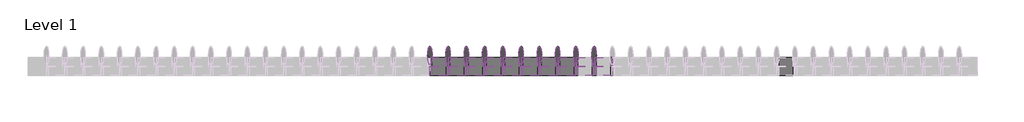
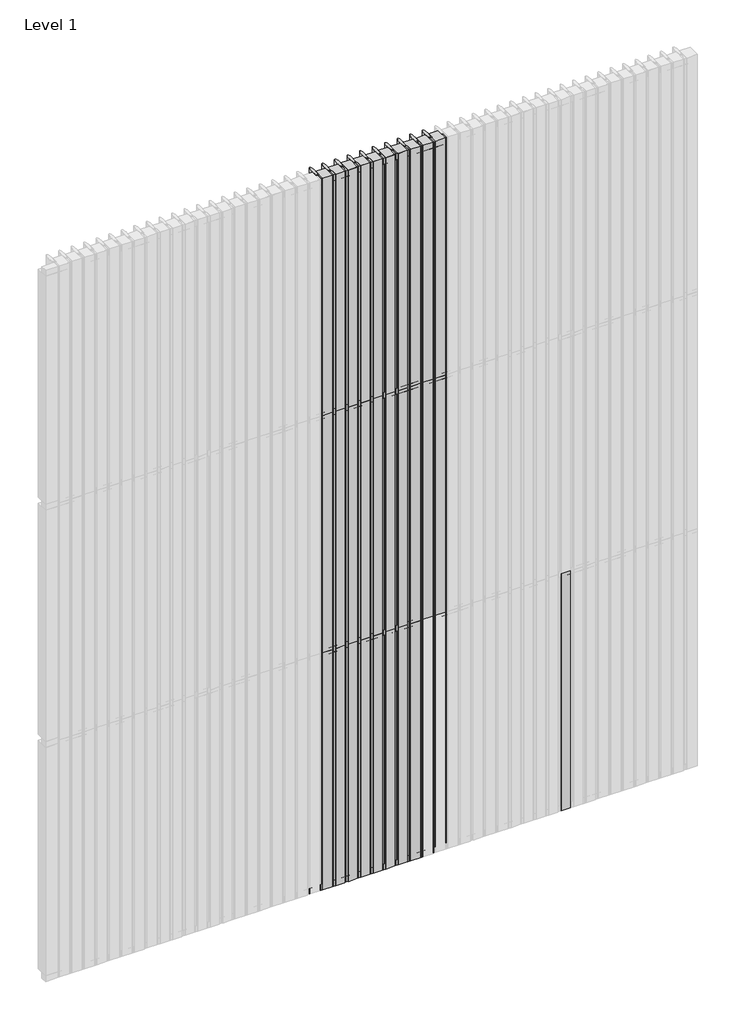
# One storey, part 4 of 6: 70 members, 59 plates.
"""IFC4 building model written with IfcOpenShell, lengths in millimetres."""

from ifc_helpers import new_model, si_unit, origin, place, context, project, spatial, transform, mapped, element, save
from components import rectangular_mullion_31e9810d, rectangular_mullion_cddbc660, rectangular_mullion_a3e25429, rectangular_mullion_ae434dd9, empty_system_panel_empty_de76a839, empty_system_panel_empty_5411477d, empty_system_panel_empty_c50988b4

model = new_model("IFC4")

# Units and contexts
model_context = context("Model", 3, world=origin())
ifc_project = project(units=[si_unit("LENGTHUNIT", "METRE", prefix="MILLI")], contexts=[model_context])

# Site, building, storey
site = spatial("IfcSite", under=ifc_project)
building = spatial("IfcBuilding", under=site)
storey = spatial("IfcBuildingStorey", under=building, Name="Level 1", Elevation=0.0)

# Members
placement = place(None, origin())
rectangular_mullion_shape = rectangular_mullion_31e9810d(model_context)
element("IfcMember", 1, ObjectType="Rectangular Mullion : RSen_21_CWM_blade - 100 ellips - 0°_gen_duco projects", at=placement, inside=storey, context=model_context, shape_type="MappedRepresentation", body=[
    mapped(rectangular_mullion_shape, transform((3900.0, 3000.0, 0.0), x_axis=(-1.0, 0.0, 0.0), y_axis=(0.0, 1.0, 0.0), z_axis=(0.0, 0.0, -1.0))),
])
element("IfcMember", 2, ObjectType="Rectangular Mullion : RSen_21_CWM_blade - 100 ellips - 0°_gen_duco projects", at=placement, inside=storey, context=model_context, shape_type="MappedRepresentation", body=[
    mapped(rectangular_mullion_shape, transform((3800.0, 3000.0, 0.0), x_axis=(-1.0, 0.0, 0.0), y_axis=(0.0, 1.0, 0.0), z_axis=(0.0, 0.0, -1.0))),
])
element("IfcMember", 3, ObjectType="Rectangular Mullion : RSen_21_CWM_blade - 100 ellips - 0°_gen_duco projects", at=placement, inside=storey, context=model_context, shape_type="MappedRepresentation", body=[
    mapped(rectangular_mullion_shape, transform((3700.0, 3000.0, 0.0), x_axis=(-1.0, 0.0, 0.0), y_axis=(0.0, 1.0, 0.0), z_axis=(0.0, 0.0, -1.0))),
])
element("IfcMember", 4, ObjectType="Rectangular Mullion : RSen_21_CWM_blade - 100 ellips - 0°_gen_duco projects", at=placement, inside=storey, context=model_context, shape_type="MappedRepresentation", body=[
    mapped(rectangular_mullion_shape, transform((3600.0, 3000.0, 0.0), x_axis=(-1.0, 0.0, 0.0), y_axis=(0.0, 1.0, 0.0), z_axis=(0.0, 0.0, -1.0))),
])
element("IfcMember", 5, ObjectType="Rectangular Mullion : RSen_21_CWM_blade - 100 ellips - 0°_gen_duco projects", at=placement, inside=storey, context=model_context, shape_type="MappedRepresentation", body=[
    mapped(rectangular_mullion_shape, transform((3500.0, 3000.0, 0.0), x_axis=(-1.0, 0.0, 0.0), y_axis=(0.0, 1.0, 0.0), z_axis=(0.0, 0.0, -1.0))),
])
element("IfcMember", 6, ObjectType="Rectangular Mullion : RSen_21_CWM_blade - 100 ellips - 0°_gen_duco projects", at=placement, inside=storey, context=model_context, shape_type="MappedRepresentation", body=[
    mapped(rectangular_mullion_shape, transform((3400.0, 3000.0, 0.0), x_axis=(-1.0, 0.0, 0.0), y_axis=(0.0, 1.0, 0.0), z_axis=(0.0, 0.0, -1.0))),
])
element("IfcMember", 7, ObjectType="Rectangular Mullion : RSen_21_CWM_blade - 100 ellips - 0°_gen_duco projects", at=placement, inside=storey, context=model_context, shape_type="MappedRepresentation", body=[
    mapped(rectangular_mullion_shape, transform((3300.0, 3000.0, 0.0), x_axis=(-1.0, 0.0, 0.0), y_axis=(0.0, 1.0, 0.0), z_axis=(0.0, 0.0, -1.0))),
])
element("IfcMember", 8, ObjectType="Rectangular Mullion : RSen_21_CWM_blade - 100 ellips - 0°_gen_duco projects", at=placement, inside=storey, context=model_context, shape_type="MappedRepresentation", body=[
    mapped(rectangular_mullion_shape, transform((3200.0, 3000.0, 0.0), x_axis=(-1.0, 0.0, 0.0), y_axis=(0.0, 1.0, 0.0), z_axis=(0.0, 0.0, -1.0))),
])
element("IfcMember", 9, ObjectType="Rectangular Mullion : RSen_21_CWM_blade - 100 ellips - 0°_gen_duco projects", at=placement, inside=storey, context=model_context, shape_type="MappedRepresentation", body=[
    mapped(rectangular_mullion_shape, transform((3100.0, 3000.0, 0.0), x_axis=(-1.0, 0.0, 0.0), y_axis=(0.0, 1.0, 0.0), z_axis=(0.0, 0.0, -1.0))),
])
element("IfcMember", 10, ObjectType="Rectangular Mullion : RSen_21_CWM_blade - 100 ellips - 0°_gen_duco projects", at=placement, inside=storey, context=model_context, shape_type="MappedRepresentation", body=[
    mapped(rectangular_mullion_shape, transform((3000.0, 3000.0, 0.0), x_axis=(-1.0, 0.0, 0.0), y_axis=(0.0, 1.0, 0.0), z_axis=(0.0, 0.0, -1.0))),
])
element("IfcMember", 11, ObjectType="Rectangular Mullion : RSen_21_CWM_blade - 100 ellips - 0°_gen_duco projects", at=placement, inside=storey, context=model_context, shape_type="MappedRepresentation", body=[
    mapped(rectangular_mullion_shape, transform((3900.0, 3000.0, 2000.0), x_axis=(-1.0, 0.0, 0.0), y_axis=(0.0, 1.0, 0.0), z_axis=(0.0, 0.0, -1.0))),
])
element("IfcMember", 12, ObjectType="Rectangular Mullion : RSen_21_CWM_blade - 100 ellips - 0°_gen_duco projects", at=placement, inside=storey, context=model_context, shape_type="MappedRepresentation", body=[
    mapped(rectangular_mullion_shape, transform((3800.0, 3000.0, 2000.0), x_axis=(-1.0, 0.0, 0.0), y_axis=(0.0, 1.0, 0.0), z_axis=(0.0, 0.0, -1.0))),
])
element("IfcMember", 13, ObjectType="Rectangular Mullion : RSen_21_CWM_blade - 100 ellips - 0°_gen_duco projects", at=placement, inside=storey, context=model_context, shape_type="MappedRepresentation", body=[
    mapped(rectangular_mullion_shape, transform((3700.0, 3000.0, 2000.0), x_axis=(-1.0, 0.0, 0.0), y_axis=(0.0, 1.0, 0.0), z_axis=(0.0, 0.0, -1.0))),
])
element("IfcMember", 14, ObjectType="Rectangular Mullion : RSen_21_CWM_blade - 100 ellips - 0°_gen_duco projects", at=placement, inside=storey, context=model_context, shape_type="MappedRepresentation", body=[
    mapped(rectangular_mullion_shape, transform((3600.0, 3000.0, 2000.0), x_axis=(-1.0, 0.0, 0.0), y_axis=(0.0, 1.0, 0.0), z_axis=(0.0, 0.0, -1.0))),
])
element("IfcMember", 15, ObjectType="Rectangular Mullion : RSen_21_CWM_blade - 100 ellips - 0°_gen_duco projects", at=placement, inside=storey, context=model_context, shape_type="MappedRepresentation", body=[
    mapped(rectangular_mullion_shape, transform((3500.0, 3000.0, 2000.0), x_axis=(-1.0, 0.0, 0.0), y_axis=(0.0, 1.0, 0.0), z_axis=(0.0, 0.0, -1.0))),
])
element("IfcMember", 16, ObjectType="Rectangular Mullion : RSen_21_CWM_blade - 100 ellips - 0°_gen_duco projects", at=placement, inside=storey, context=model_context, shape_type="MappedRepresentation", body=[
    mapped(rectangular_mullion_shape, transform((3400.0, 3000.0, 2000.0), x_axis=(-1.0, 0.0, 0.0), y_axis=(0.0, 1.0, 0.0), z_axis=(0.0, 0.0, -1.0))),
])
element("IfcMember", 17, ObjectType="Rectangular Mullion : RSen_21_CWM_blade - 100 ellips - 0°_gen_duco projects", at=placement, inside=storey, context=model_context, shape_type="MappedRepresentation", body=[
    mapped(rectangular_mullion_shape, transform((3300.0, 3000.0, 2000.0), x_axis=(-1.0, 0.0, 0.0), y_axis=(0.0, 1.0, 0.0), z_axis=(0.0, 0.0, -1.0))),
])
element("IfcMember", 18, ObjectType="Rectangular Mullion : RSen_21_CWM_blade - 100 ellips - 0°_gen_duco projects", at=placement, inside=storey, context=model_context, shape_type="MappedRepresentation", body=[
    mapped(rectangular_mullion_shape, transform((3200.0, 3000.0, 2000.0), x_axis=(-1.0, 0.0, 0.0), y_axis=(0.0, 1.0, 0.0), z_axis=(0.0, 0.0, -1.0))),
])
element("IfcMember", 19, ObjectType="Rectangular Mullion : RSen_21_CWM_blade - 100 ellips - 0°_gen_duco projects", at=placement, inside=storey, context=model_context, shape_type="MappedRepresentation", body=[
    mapped(rectangular_mullion_shape, transform((3100.0, 3000.0, 2000.0), x_axis=(-1.0, 0.0, 0.0), y_axis=(0.0, 1.0, 0.0), z_axis=(0.0, 0.0, -1.0))),
])
element("IfcMember", 20, ObjectType="Rectangular Mullion : RSen_21_CWM_blade - 100 ellips - 0°_gen_duco projects", at=placement, inside=storey, context=model_context, shape_type="MappedRepresentation", body=[
    mapped(rectangular_mullion_shape, transform((3000.0, 3000.0, 2000.0), x_axis=(-1.0, 0.0, 0.0), y_axis=(0.0, 1.0, 0.0), z_axis=(0.0, 0.0, -1.0))),
])
element("IfcMember", 21, ObjectType="Rectangular Mullion : RSen_21_CWM_blade - 100 ellips - 0°_gen_duco projects", at=placement, inside=storey, context=model_context, shape_type="MappedRepresentation", body=[
    mapped(rectangular_mullion_shape, transform((3900.0, 3000.0, 4000.0), x_axis=(-1.0, 0.0, 0.0), y_axis=(0.0, 1.0, 0.0), z_axis=(0.0, 0.0, -1.0))),
])
element("IfcMember", 22, ObjectType="Rectangular Mullion : RSen_21_CWM_blade - 100 ellips - 0°_gen_duco projects", at=placement, inside=storey, context=model_context, shape_type="MappedRepresentation", body=[
    mapped(rectangular_mullion_shape, transform((3800.0, 3000.0, 4000.0), x_axis=(-1.0, 0.0, 0.0), y_axis=(0.0, 1.0, 0.0), z_axis=(0.0, 0.0, -1.0))),
])
element("IfcMember", 23, ObjectType="Rectangular Mullion : RSen_21_CWM_blade - 100 ellips - 0°_gen_duco projects", at=placement, inside=storey, context=model_context, shape_type="MappedRepresentation", body=[
    mapped(rectangular_mullion_shape, transform((3700.0, 3000.0, 4000.0), x_axis=(-1.0, 0.0, 0.0), y_axis=(0.0, 1.0, 0.0), z_axis=(0.0, 0.0, -1.0))),
])
element("IfcMember", 24, ObjectType="Rectangular Mullion : RSen_21_CWM_blade - 100 ellips - 0°_gen_duco projects", at=placement, inside=storey, context=model_context, shape_type="MappedRepresentation", body=[
    mapped(rectangular_mullion_shape, transform((3600.0, 3000.0, 4000.0), x_axis=(-1.0, 0.0, 0.0), y_axis=(0.0, 1.0, 0.0), z_axis=(0.0, 0.0, -1.0))),
])
element("IfcMember", 25, ObjectType="Rectangular Mullion : RSen_21_CWM_blade - 100 ellips - 0°_gen_duco projects", at=placement, inside=storey, context=model_context, shape_type="MappedRepresentation", body=[
    mapped(rectangular_mullion_shape, transform((3500.0, 3000.0, 4000.0), x_axis=(-1.0, 0.0, 0.0), y_axis=(0.0, 1.0, 0.0), z_axis=(0.0, 0.0, -1.0))),
])
element("IfcMember", 26, ObjectType="Rectangular Mullion : RSen_21_CWM_blade - 100 ellips - 0°_gen_duco projects", at=placement, inside=storey, context=model_context, shape_type="MappedRepresentation", body=[
    mapped(rectangular_mullion_shape, transform((3400.0, 3000.0, 4000.0), x_axis=(-1.0, 0.0, 0.0), y_axis=(0.0, 1.0, 0.0), z_axis=(0.0, 0.0, -1.0))),
])
element("IfcMember", 27, ObjectType="Rectangular Mullion : RSen_21_CWM_blade - 100 ellips - 0°_gen_duco projects", at=placement, inside=storey, context=model_context, shape_type="MappedRepresentation", body=[
    mapped(rectangular_mullion_shape, transform((3300.0, 3000.0, 4000.0), x_axis=(-1.0, 0.0, 0.0), y_axis=(0.0, 1.0, 0.0), z_axis=(0.0, 0.0, -1.0))),
])
element("IfcMember", 28, ObjectType="Rectangular Mullion : RSen_21_CWM_blade - 100 ellips - 0°_gen_duco projects", at=placement, inside=storey, context=model_context, shape_type="MappedRepresentation", body=[
    mapped(rectangular_mullion_shape, transform((3200.0, 3000.0, 4000.0), x_axis=(-1.0, 0.0, 0.0), y_axis=(0.0, 1.0, 0.0), z_axis=(0.0, 0.0, -1.0))),
])
element("IfcMember", 29, ObjectType="Rectangular Mullion : RSen_21_CWM_blade - 100 ellips - 0°_gen_duco projects", at=placement, inside=storey, context=model_context, shape_type="MappedRepresentation", body=[
    mapped(rectangular_mullion_shape, transform((3100.0, 3000.0, 4000.0), x_axis=(-1.0, 0.0, 0.0), y_axis=(0.0, 1.0, 0.0), z_axis=(0.0, 0.0, -1.0))),
])
element("IfcMember", 30, ObjectType="Rectangular Mullion : RSen_21_CWM_blade - 100 ellips - 0°_gen_duco projects", at=placement, inside=storey, context=model_context, shape_type="MappedRepresentation", body=[
    mapped(rectangular_mullion_shape, transform((3000.0, 3000.0, 4000.0), x_axis=(-1.0, 0.0, 0.0), y_axis=(0.0, 1.0, 0.0), z_axis=(0.0, 0.0, -1.0))),
])
rectangular_mullion_2_shape = rectangular_mullion_cddbc660(model_context)
element("IfcMember", 31, ObjectType="Rectangular Mullion : RSen_21_CWM_support profile 50x50 - left_gen_duco projects", at=placement, inside=storey, context=model_context, shape_type="MappedRepresentation", body=[
    mapped(rectangular_mullion_2_shape, transform((3900.0, 3000.0, 6000.0), x_axis=(0.0, 0.0, 1.0), y_axis=(0.0, 1.0, 0.0), z_axis=(-1.0, 0.0, 0.0))),
])
element("IfcMember", 32, ObjectType="Rectangular Mullion : RSen_21_CWM_support profile 50x50 - left_gen_duco projects", at=placement, inside=storey, context=model_context, shape_type="MappedRepresentation", body=[
    mapped(rectangular_mullion_2_shape, transform((3800.0, 3000.0, 6000.0), x_axis=(0.0, 0.0, 1.0), y_axis=(0.0, 1.0, 0.0), z_axis=(-1.0, 0.0, 0.0))),
])
element("IfcMember", 33, ObjectType="Rectangular Mullion : RSen_21_CWM_support profile 50x50 - left_gen_duco projects", at=placement, inside=storey, context=model_context, shape_type="MappedRepresentation", body=[
    mapped(rectangular_mullion_2_shape, transform((3700.0, 3000.0, 6000.0), x_axis=(0.0, 0.0, 1.0), y_axis=(0.0, 1.0, 0.0), z_axis=(-1.0, 0.0, 0.0))),
])
element("IfcMember", 34, ObjectType="Rectangular Mullion : RSen_21_CWM_support profile 50x50 - left_gen_duco projects", at=placement, inside=storey, context=model_context, shape_type="MappedRepresentation", body=[
    mapped(rectangular_mullion_2_shape, transform((3600.0, 3000.0, 6000.0), x_axis=(0.0, 0.0, 1.0), y_axis=(0.0, 1.0, 0.0), z_axis=(-1.0, 0.0, 0.0))),
])
element("IfcMember", 35, ObjectType="Rectangular Mullion : RSen_21_CWM_support profile 50x50 - left_gen_duco projects", at=placement, inside=storey, context=model_context, shape_type="MappedRepresentation", body=[
    mapped(rectangular_mullion_2_shape, transform((3500.0, 3000.0, 6000.0), x_axis=(0.0, 0.0, 1.0), y_axis=(0.0, 1.0, 0.0), z_axis=(-1.0, 0.0, 0.0))),
])
element("IfcMember", 36, ObjectType="Rectangular Mullion : RSen_21_CWM_support profile 50x50 - left_gen_duco projects", at=placement, inside=storey, context=model_context, shape_type="MappedRepresentation", body=[
    mapped(rectangular_mullion_2_shape, transform((3400.0, 3000.0, 6000.0), x_axis=(0.0, 0.0, 1.0), y_axis=(0.0, 1.0, 0.0), z_axis=(-1.0, 0.0, 0.0))),
])
element("IfcMember", 37, ObjectType="Rectangular Mullion : RSen_21_CWM_support profile 50x50 - left_gen_duco projects", at=placement, inside=storey, context=model_context, shape_type="MappedRepresentation", body=[
    mapped(rectangular_mullion_2_shape, transform((3300.0, 3000.0, 6000.0), x_axis=(0.0, 0.0, 1.0), y_axis=(0.0, 1.0, 0.0), z_axis=(-1.0, 0.0, 0.0))),
])
element("IfcMember", 38, ObjectType="Rectangular Mullion : RSen_21_CWM_support profile 50x50 - left_gen_duco projects", at=placement, inside=storey, context=model_context, shape_type="MappedRepresentation", body=[
    mapped(rectangular_mullion_2_shape, transform((3200.0, 3000.0, 6000.0), x_axis=(0.0, 0.0, 1.0), y_axis=(0.0, 1.0, 0.0), z_axis=(-1.0, 0.0, 0.0))),
])
element("IfcMember", 39, ObjectType="Rectangular Mullion : RSen_21_CWM_support profile 50x50 - left_gen_duco projects", at=placement, inside=storey, context=model_context, shape_type="MappedRepresentation", body=[
    mapped(rectangular_mullion_2_shape, transform((3100.0, 3000.0, 6000.0), x_axis=(0.0, 0.0, 1.0), y_axis=(0.0, 1.0, 0.0), z_axis=(-1.0, 0.0, 0.0))),
])
element("IfcMember", 40, ObjectType="Rectangular Mullion : RSen_21_CWM_support profile 50x50 - left_gen_duco projects", at=placement, inside=storey, context=model_context, shape_type="MappedRepresentation", body=[
    mapped(rectangular_mullion_2_shape, transform((3000.0, 3000.0, 6000.0), x_axis=(0.0, 0.0, 1.0), y_axis=(0.0, 1.0, 0.0), z_axis=(-1.0, 0.0, 0.0))),
])
rectangular_mullion_3_shape = rectangular_mullion_a3e25429(model_context)
element("IfcMember", 41, ObjectType="Rectangular Mullion : RSen_21_CWM_support profile 50x50 - right_gen_duco projects", at=placement, inside=storey, context=model_context, shape_type="MappedRepresentation", body=[
    mapped(rectangular_mullion_3_shape, transform((3900.0, 3000.0, 0.0), x_axis=(0.0, 0.0, -1.0), y_axis=(0.0, 1.0, 0.0), z_axis=(1.0, 0.0, 0.0))),
])
element("IfcMember", 42, ObjectType="Rectangular Mullion : RSen_21_CWM_support profile 50x50 - right_gen_duco projects", at=placement, inside=storey, context=model_context, shape_type="MappedRepresentation", body=[
    mapped(rectangular_mullion_3_shape, transform((3800.0, 3000.0, 0.0), x_axis=(0.0, 0.0, -1.0), y_axis=(0.0, 1.0, 0.0), z_axis=(1.0, 0.0, 0.0))),
])
element("IfcMember", 43, ObjectType="Rectangular Mullion : RSen_21_CWM_support profile 50x50 - right_gen_duco projects", at=placement, inside=storey, context=model_context, shape_type="MappedRepresentation", body=[
    mapped(rectangular_mullion_3_shape, transform((3700.0, 3000.0, 0.0), x_axis=(0.0, 0.0, -1.0), y_axis=(0.0, 1.0, 0.0), z_axis=(1.0, 0.0, 0.0))),
])
element("IfcMember", 44, ObjectType="Rectangular Mullion : RSen_21_CWM_support profile 50x50 - right_gen_duco projects", at=placement, inside=storey, context=model_context, shape_type="MappedRepresentation", body=[
    mapped(rectangular_mullion_3_shape, transform((3600.0, 3000.0, 0.0), x_axis=(0.0, 0.0, -1.0), y_axis=(0.0, 1.0, 0.0), z_axis=(1.0, 0.0, 0.0))),
])
element("IfcMember", 45, ObjectType="Rectangular Mullion : RSen_21_CWM_support profile 50x50 - right_gen_duco projects", at=placement, inside=storey, context=model_context, shape_type="MappedRepresentation", body=[
    mapped(rectangular_mullion_3_shape, transform((3500.0, 3000.0, 0.0), x_axis=(0.0, 0.0, -1.0), y_axis=(0.0, 1.0, 0.0), z_axis=(1.0, 0.0, 0.0))),
])
element("IfcMember", 46, ObjectType="Rectangular Mullion : RSen_21_CWM_support profile 50x50 - right_gen_duco projects", at=placement, inside=storey, context=model_context, shape_type="MappedRepresentation", body=[
    mapped(rectangular_mullion_3_shape, transform((3400.0, 3000.0, 0.0), x_axis=(0.0, 0.0, -1.0), y_axis=(0.0, 1.0, 0.0), z_axis=(1.0, 0.0, 0.0))),
])
element("IfcMember", 47, ObjectType="Rectangular Mullion : RSen_21_CWM_support profile 50x50 - right_gen_duco projects", at=placement, inside=storey, context=model_context, shape_type="MappedRepresentation", body=[
    mapped(rectangular_mullion_3_shape, transform((3300.0, 3000.0, 0.0), x_axis=(0.0, 0.0, -1.0), y_axis=(0.0, 1.0, 0.0), z_axis=(1.0, 0.0, 0.0))),
])
element("IfcMember", 48, ObjectType="Rectangular Mullion : RSen_21_CWM_support profile 50x50 - right_gen_duco projects", at=placement, inside=storey, context=model_context, shape_type="MappedRepresentation", body=[
    mapped(rectangular_mullion_3_shape, transform((3200.0, 3000.0, 0.0), x_axis=(0.0, 0.0, -1.0), y_axis=(0.0, 1.0, 0.0), z_axis=(1.0, 0.0, 0.0))),
])
element("IfcMember", 49, ObjectType="Rectangular Mullion : RSen_21_CWM_support profile 50x50 - right_gen_duco projects", at=placement, inside=storey, context=model_context, shape_type="MappedRepresentation", body=[
    mapped(rectangular_mullion_3_shape, transform((3100.0, 3000.0, 0.0), x_axis=(0.0, 0.0, -1.0), y_axis=(0.0, 1.0, 0.0), z_axis=(1.0, 0.0, 0.0))),
])
element("IfcMember", 50, ObjectType="Rectangular Mullion : RSen_21_CWM_support profile 50x50 - right_gen_duco projects", at=placement, inside=storey, context=model_context, shape_type="MappedRepresentation", body=[
    mapped(rectangular_mullion_3_shape, transform((3000.0, 3000.0, 0.0), x_axis=(0.0, 0.0, -1.0), y_axis=(0.0, 1.0, 0.0), z_axis=(1.0, 0.0, 0.0))),
])
rectangular_mullion_4_shape = rectangular_mullion_ae434dd9(model_context)
element("IfcMember", 51, ObjectType="Rectangular Mullion : RSen_21_CWM_support profile 50x50_gen_duco projects", at=placement, inside=storey, context=model_context, shape_type="MappedRepresentation", body=[
    mapped(rectangular_mullion_4_shape, transform((3900.0, 3000.0, 2000.0), x_axis=(0.0, 0.0, 1.0), y_axis=(0.0, 1.0, 0.0), z_axis=(-1.0, 0.0, 0.0))),
])
element("IfcMember", 52, ObjectType="Rectangular Mullion : RSen_21_CWM_support profile 50x50_gen_duco projects", at=placement, inside=storey, context=model_context, shape_type="MappedRepresentation", body=[
    mapped(rectangular_mullion_4_shape, transform((3800.0, 3000.0, 2000.0), x_axis=(0.0, 0.0, 1.0), y_axis=(0.0, 1.0, 0.0), z_axis=(-1.0, 0.0, 0.0))),
])
element("IfcMember", 53, ObjectType="Rectangular Mullion : RSen_21_CWM_support profile 50x50_gen_duco projects", at=placement, inside=storey, context=model_context, shape_type="MappedRepresentation", body=[
    mapped(rectangular_mullion_4_shape, transform((3700.0, 3000.0, 2000.0), x_axis=(0.0, 0.0, 1.0), y_axis=(0.0, 1.0, 0.0), z_axis=(-1.0, 0.0, 0.0))),
])
element("IfcMember", 54, ObjectType="Rectangular Mullion : RSen_21_CWM_support profile 50x50_gen_duco projects", at=placement, inside=storey, context=model_context, shape_type="MappedRepresentation", body=[
    mapped(rectangular_mullion_4_shape, transform((3600.0, 3000.0, 2000.0), x_axis=(0.0, 0.0, 1.0), y_axis=(0.0, 1.0, 0.0), z_axis=(-1.0, 0.0, 0.0))),
])
element("IfcMember", 55, ObjectType="Rectangular Mullion : RSen_21_CWM_support profile 50x50_gen_duco projects", at=placement, inside=storey, context=model_context, shape_type="MappedRepresentation", body=[
    mapped(rectangular_mullion_4_shape, transform((3500.0, 3000.0, 2000.0), x_axis=(0.0, 0.0, 1.0), y_axis=(0.0, 1.0, 0.0), z_axis=(-1.0, 0.0, 0.0))),
])
element("IfcMember", 56, ObjectType="Rectangular Mullion : RSen_21_CWM_support profile 50x50_gen_duco projects", at=placement, inside=storey, context=model_context, shape_type="MappedRepresentation", body=[
    mapped(rectangular_mullion_4_shape, transform((3400.0, 3000.0, 2000.0), x_axis=(0.0, 0.0, 1.0), y_axis=(0.0, 1.0, 0.0), z_axis=(-1.0, 0.0, 0.0))),
])
element("IfcMember", 57, ObjectType="Rectangular Mullion : RSen_21_CWM_support profile 50x50_gen_duco projects", at=placement, inside=storey, context=model_context, shape_type="MappedRepresentation", body=[
    mapped(rectangular_mullion_4_shape, transform((3300.0, 3000.0, 2000.0), x_axis=(0.0, 0.0, 1.0), y_axis=(0.0, 1.0, 0.0), z_axis=(-1.0, 0.0, 0.0))),
])
element("IfcMember", 58, ObjectType="Rectangular Mullion : RSen_21_CWM_support profile 50x50_gen_duco projects", at=placement, inside=storey, context=model_context, shape_type="MappedRepresentation", body=[
    mapped(rectangular_mullion_4_shape, transform((3200.0, 3000.0, 2000.0), x_axis=(0.0, 0.0, 1.0), y_axis=(0.0, 1.0, 0.0), z_axis=(-1.0, 0.0, 0.0))),
])
element("IfcMember", 59, ObjectType="Rectangular Mullion : RSen_21_CWM_support profile 50x50_gen_duco projects", at=placement, inside=storey, context=model_context, shape_type="MappedRepresentation", body=[
    mapped(rectangular_mullion_4_shape, transform((3100.0, 3000.0, 2000.0), x_axis=(0.0, 0.0, 1.0), y_axis=(0.0, 1.0, 0.0), z_axis=(-1.0, 0.0, 0.0))),
])
element("IfcMember", 60, ObjectType="Rectangular Mullion : RSen_21_CWM_support profile 50x50_gen_duco projects", at=placement, inside=storey, context=model_context, shape_type="MappedRepresentation", body=[
    mapped(rectangular_mullion_4_shape, transform((3000.0, 3000.0, 2000.0), x_axis=(0.0, 0.0, 1.0), y_axis=(0.0, 1.0, 0.0), z_axis=(-1.0, 0.0, 0.0))),
])
element("IfcMember", 61, ObjectType="Rectangular Mullion : RSen_21_CWM_support profile 50x50_gen_duco projects", at=placement, inside=storey, context=model_context, shape_type="MappedRepresentation", body=[
    mapped(rectangular_mullion_4_shape, transform((3900.0, 3000.0, 4000.0), x_axis=(0.0, 0.0, 1.0), y_axis=(0.0, 1.0, 0.0), z_axis=(-1.0, 0.0, 0.0))),
])
element("IfcMember", 62, ObjectType="Rectangular Mullion : RSen_21_CWM_support profile 50x50_gen_duco projects", at=placement, inside=storey, context=model_context, shape_type="MappedRepresentation", body=[
    mapped(rectangular_mullion_4_shape, transform((3800.0, 3000.0, 4000.0), x_axis=(0.0, 0.0, 1.0), y_axis=(0.0, 1.0, 0.0), z_axis=(-1.0, 0.0, 0.0))),
])
element("IfcMember", 63, ObjectType="Rectangular Mullion : RSen_21_CWM_support profile 50x50_gen_duco projects", at=placement, inside=storey, context=model_context, shape_type="MappedRepresentation", body=[
    mapped(rectangular_mullion_4_shape, transform((3700.0, 3000.0, 4000.0), x_axis=(0.0, 0.0, 1.0), y_axis=(0.0, 1.0, 0.0), z_axis=(-1.0, 0.0, 0.0))),
])
element("IfcMember", 64, ObjectType="Rectangular Mullion : RSen_21_CWM_support profile 50x50_gen_duco projects", at=placement, inside=storey, context=model_context, shape_type="MappedRepresentation", body=[
    mapped(rectangular_mullion_4_shape, transform((3600.0, 3000.0, 4000.0), x_axis=(0.0, 0.0, 1.0), y_axis=(0.0, 1.0, 0.0), z_axis=(-1.0, 0.0, 0.0))),
])
element("IfcMember", 65, ObjectType="Rectangular Mullion : RSen_21_CWM_support profile 50x50_gen_duco projects", at=placement, inside=storey, context=model_context, shape_type="MappedRepresentation", body=[
    mapped(rectangular_mullion_4_shape, transform((3500.0, 3000.0, 4000.0), x_axis=(0.0, 0.0, 1.0), y_axis=(0.0, 1.0, 0.0), z_axis=(-1.0, 0.0, 0.0))),
])
element("IfcMember", 66, ObjectType="Rectangular Mullion : RSen_21_CWM_support profile 50x50_gen_duco projects", at=placement, inside=storey, context=model_context, shape_type="MappedRepresentation", body=[
    mapped(rectangular_mullion_4_shape, transform((3400.0, 3000.0, 4000.0), x_axis=(0.0, 0.0, 1.0), y_axis=(0.0, 1.0, 0.0), z_axis=(-1.0, 0.0, 0.0))),
])
element("IfcMember", 67, ObjectType="Rectangular Mullion : RSen_21_CWM_support profile 50x50_gen_duco projects", at=placement, inside=storey, context=model_context, shape_type="MappedRepresentation", body=[
    mapped(rectangular_mullion_4_shape, transform((3300.0, 3000.0, 4000.0), x_axis=(0.0, 0.0, 1.0), y_axis=(0.0, 1.0, 0.0), z_axis=(-1.0, 0.0, 0.0))),
])
element("IfcMember", 68, ObjectType="Rectangular Mullion : RSen_21_CWM_support profile 50x50_gen_duco projects", at=placement, inside=storey, context=model_context, shape_type="MappedRepresentation", body=[
    mapped(rectangular_mullion_4_shape, transform((3200.0, 3000.0, 4000.0), x_axis=(0.0, 0.0, 1.0), y_axis=(0.0, 1.0, 0.0), z_axis=(-1.0, 0.0, 0.0))),
])
element("IfcMember", 69, ObjectType="Rectangular Mullion : RSen_21_CWM_support profile 50x50_gen_duco projects", at=placement, inside=storey, context=model_context, shape_type="MappedRepresentation", body=[
    mapped(rectangular_mullion_4_shape, transform((3100.0, 3000.0, 4000.0), x_axis=(0.0, 0.0, 1.0), y_axis=(0.0, 1.0, 0.0), z_axis=(-1.0, 0.0, 0.0))),
])
element("IfcMember", 70, ObjectType="Rectangular Mullion : RSen_21_CWM_support profile 50x50_gen_duco projects", at=placement, inside=storey, context=model_context, shape_type="MappedRepresentation", body=[
    mapped(rectangular_mullion_4_shape, transform((3000.0, 3000.0, 4000.0), x_axis=(0.0, 0.0, 1.0), y_axis=(0.0, 1.0, 0.0), z_axis=(-1.0, 0.0, 0.0))),
])

# Plates
empty_system_panel_empty_shape = empty_system_panel_empty_de76a839(model_context)
element("IfcPlate", 71, ObjectType="Empty System Panel : Empty", at=placement, inside=storey, context=model_context, shape_type="MappedRepresentation", body=[
    mapped(empty_system_panel_empty_shape, transform((4950.0, 3000.0, 0.0), x_axis=(-1.0, 0.0, 0.0), y_axis=(0.0, -1.0, 0.0), z_axis=(0.0, 0.0, 1.0))),
])
element("IfcPlate", 72, ObjectType="Empty System Panel : Empty", at=placement, inside=storey, context=model_context, shape_type="MappedRepresentation", body=[
    mapped(empty_system_panel_empty_shape, transform((3750.0, 3000.0, 0.0), x_axis=(-1.0, 0.0, 0.0), y_axis=(0.0, -1.0, 0.0), z_axis=(0.0, 0.0, 1.0))),
])
element("IfcPlate", 73, ObjectType="Empty System Panel : Empty", at=placement, inside=storey, context=model_context, shape_type="MappedRepresentation", body=[
    mapped(empty_system_panel_empty_shape, transform((3650.0, 3000.0, 0.0), x_axis=(-1.0, 0.0, 0.0), y_axis=(0.0, -1.0, 0.0), z_axis=(0.0, 0.0, 1.0))),
])
element("IfcPlate", 74, ObjectType="Empty System Panel : Empty", at=placement, inside=storey, context=model_context, shape_type="MappedRepresentation", body=[
    mapped(empty_system_panel_empty_shape, transform((3550.0, 3000.0, 0.0), x_axis=(-1.0, 0.0, 0.0), y_axis=(0.0, -1.0, 0.0), z_axis=(0.0, 0.0, 1.0))),
])
element("IfcPlate", 75, ObjectType="Empty System Panel : Empty", at=placement, inside=storey, context=model_context, shape_type="MappedRepresentation", body=[
    mapped(empty_system_panel_empty_shape, transform((3450.0, 3000.0, 0.0), x_axis=(-1.0, 0.0, 0.0), y_axis=(0.0, -1.0, 0.0), z_axis=(0.0, 0.0, 1.0))),
])
element("IfcPlate", 76, ObjectType="Empty System Panel : Empty", at=placement, inside=storey, context=model_context, shape_type="MappedRepresentation", body=[
    mapped(empty_system_panel_empty_shape, transform((3350.0, 3000.0, 0.0), x_axis=(-1.0, 0.0, 0.0), y_axis=(0.0, -1.0, 0.0), z_axis=(0.0, 0.0, 1.0))),
])
element("IfcPlate", 77, ObjectType="Empty System Panel : Empty", at=placement, inside=storey, context=model_context, shape_type="MappedRepresentation", body=[
    mapped(empty_system_panel_empty_shape, transform((3250.0, 3000.0, 0.0), x_axis=(-1.0, 0.0, 0.0), y_axis=(0.0, -1.0, 0.0), z_axis=(0.0, 0.0, 1.0))),
])
element("IfcPlate", 78, ObjectType="Empty System Panel : Empty", at=placement, inside=storey, context=model_context, shape_type="MappedRepresentation", body=[
    mapped(empty_system_panel_empty_shape, transform((3150.0, 3000.0, 0.0), x_axis=(-1.0, 0.0, 0.0), y_axis=(0.0, -1.0, 0.0), z_axis=(0.0, 0.0, 1.0))),
])
element("IfcPlate", 79, ObjectType="Empty System Panel : Empty", at=placement, inside=storey, context=model_context, shape_type="MappedRepresentation", body=[
    mapped(empty_system_panel_empty_shape, transform((3050.0, 3000.0, 0.0), x_axis=(-1.0, 0.0, 0.0), y_axis=(0.0, -1.0, 0.0), z_axis=(0.0, 0.0, 1.0))),
])
element("IfcPlate", 80, ObjectType="Empty System Panel : Empty", at=placement, inside=storey, context=model_context, shape_type="MappedRepresentation", body=[
    mapped(empty_system_panel_empty_shape, transform((3950.0, 3000.0, 2000.0), x_axis=(-1.0, 0.0, 0.0), y_axis=(0.0, -1.0, 0.0), z_axis=(0.0, 0.0, 1.0))),
])
element("IfcPlate", 81, ObjectType="Empty System Panel : Empty", at=placement, inside=storey, context=model_context, shape_type="MappedRepresentation", body=[
    mapped(empty_system_panel_empty_shape, transform((3850.0, 3000.0, 2000.0), x_axis=(-1.0, 0.0, 0.0), y_axis=(0.0, -1.0, 0.0), z_axis=(0.0, 0.0, 1.0))),
])
element("IfcPlate", 82, ObjectType="Empty System Panel : Empty", at=placement, inside=storey, context=model_context, shape_type="MappedRepresentation", body=[
    mapped(empty_system_panel_empty_shape, transform((3750.0, 3000.0, 2000.0), x_axis=(-1.0, 0.0, 0.0), y_axis=(0.0, -1.0, 0.0), z_axis=(0.0, 0.0, 1.0))),
])
element("IfcPlate", 83, ObjectType="Empty System Panel : Empty", at=placement, inside=storey, context=model_context, shape_type="MappedRepresentation", body=[
    mapped(empty_system_panel_empty_shape, transform((3650.0, 3000.0, 2000.0), x_axis=(-1.0, 0.0, 0.0), y_axis=(0.0, -1.0, 0.0), z_axis=(0.0, 0.0, 1.0))),
])
element("IfcPlate", 84, ObjectType="Empty System Panel : Empty", at=placement, inside=storey, context=model_context, shape_type="MappedRepresentation", body=[
    mapped(empty_system_panel_empty_shape, transform((3550.0, 3000.0, 2000.0), x_axis=(-1.0, 0.0, 0.0), y_axis=(0.0, -1.0, 0.0), z_axis=(0.0, 0.0, 1.0))),
])
element("IfcPlate", 85, ObjectType="Empty System Panel : Empty", at=placement, inside=storey, context=model_context, shape_type="MappedRepresentation", body=[
    mapped(empty_system_panel_empty_shape, transform((3450.0, 3000.0, 2000.0), x_axis=(-1.0, 0.0, 0.0), y_axis=(0.0, -1.0, 0.0), z_axis=(0.0, 0.0, 1.0))),
])
element("IfcPlate", 86, ObjectType="Empty System Panel : Empty", at=placement, inside=storey, context=model_context, shape_type="MappedRepresentation", body=[
    mapped(empty_system_panel_empty_shape, transform((3350.0, 3000.0, 2000.0), x_axis=(-1.0, 0.0, 0.0), y_axis=(0.0, -1.0, 0.0), z_axis=(0.0, 0.0, 1.0))),
])
element("IfcPlate", 87, ObjectType="Empty System Panel : Empty", at=placement, inside=storey, context=model_context, shape_type="MappedRepresentation", body=[
    mapped(empty_system_panel_empty_shape, transform((3250.0, 3000.0, 2000.0), x_axis=(-1.0, 0.0, 0.0), y_axis=(0.0, -1.0, 0.0), z_axis=(0.0, 0.0, 1.0))),
])
element("IfcPlate", 88, ObjectType="Empty System Panel : Empty", at=placement, inside=storey, context=model_context, shape_type="MappedRepresentation", body=[
    mapped(empty_system_panel_empty_shape, transform((3150.0, 3000.0, 2000.0), x_axis=(-1.0, 0.0, 0.0), y_axis=(0.0, -1.0, 0.0), z_axis=(0.0, 0.0, 1.0))),
])
element("IfcPlate", 89, ObjectType="Empty System Panel : Empty", at=placement, inside=storey, context=model_context, shape_type="MappedRepresentation", body=[
    mapped(empty_system_panel_empty_shape, transform((3050.0, 3000.0, 2000.0), x_axis=(-1.0, 0.0, 0.0), y_axis=(0.0, -1.0, 0.0), z_axis=(0.0, 0.0, 1.0))),
])
element("IfcPlate", 90, ObjectType="Empty System Panel : Empty", at=placement, inside=storey, context=model_context, shape_type="MappedRepresentation", body=[
    mapped(empty_system_panel_empty_shape, transform((3950.0, 3000.0, 4000.0), x_axis=(-1.0, 0.0, 0.0), y_axis=(0.0, -1.0, 0.0), z_axis=(0.0, 0.0, 1.0))),
])
element("IfcPlate", 91, ObjectType="Empty System Panel : Empty", at=placement, inside=storey, context=model_context, shape_type="MappedRepresentation", body=[
    mapped(empty_system_panel_empty_shape, transform((3850.0, 3000.0, 4000.0), x_axis=(-1.0, 0.0, 0.0), y_axis=(0.0, -1.0, 0.0), z_axis=(0.0, 0.0, 1.0))),
])
element("IfcPlate", 92, ObjectType="Empty System Panel : Empty", at=placement, inside=storey, context=model_context, shape_type="MappedRepresentation", body=[
    mapped(empty_system_panel_empty_shape, transform((3750.0, 3000.0, 4000.0), x_axis=(-1.0, 0.0, 0.0), y_axis=(0.0, -1.0, 0.0), z_axis=(0.0, 0.0, 1.0))),
])
element("IfcPlate", 93, ObjectType="Empty System Panel : Empty", at=placement, inside=storey, context=model_context, shape_type="MappedRepresentation", body=[
    mapped(empty_system_panel_empty_shape, transform((3650.0, 3000.0, 4000.0), x_axis=(-1.0, 0.0, 0.0), y_axis=(0.0, -1.0, 0.0), z_axis=(0.0, 0.0, 1.0))),
])
element("IfcPlate", 94, ObjectType="Empty System Panel : Empty", at=placement, inside=storey, context=model_context, shape_type="MappedRepresentation", body=[
    mapped(empty_system_panel_empty_shape, transform((3550.0, 3000.0, 4000.0), x_axis=(-1.0, 0.0, 0.0), y_axis=(0.0, -1.0, 0.0), z_axis=(0.0, 0.0, 1.0))),
])
element("IfcPlate", 95, ObjectType="Empty System Panel : Empty", at=placement, inside=storey, context=model_context, shape_type="MappedRepresentation", body=[
    mapped(empty_system_panel_empty_shape, transform((3450.0, 3000.0, 4000.0), x_axis=(-1.0, 0.0, 0.0), y_axis=(0.0, -1.0, 0.0), z_axis=(0.0, 0.0, 1.0))),
])
element("IfcPlate", 96, ObjectType="Empty System Panel : Empty", at=placement, inside=storey, context=model_context, shape_type="MappedRepresentation", body=[
    mapped(empty_system_panel_empty_shape, transform((3350.0, 3000.0, 4000.0), x_axis=(-1.0, 0.0, 0.0), y_axis=(0.0, -1.0, 0.0), z_axis=(0.0, 0.0, 1.0))),
])
element("IfcPlate", 97, ObjectType="Empty System Panel : Empty", at=placement, inside=storey, context=model_context, shape_type="MappedRepresentation", body=[
    mapped(empty_system_panel_empty_shape, transform((3250.0, 3000.0, 4000.0), x_axis=(-1.0, 0.0, 0.0), y_axis=(0.0, -1.0, 0.0), z_axis=(0.0, 0.0, 1.0))),
])
element("IfcPlate", 98, ObjectType="Empty System Panel : Empty", at=placement, inside=storey, context=model_context, shape_type="MappedRepresentation", body=[
    mapped(empty_system_panel_empty_shape, transform((3150.0, 3000.0, 4000.0), x_axis=(-1.0, 0.0, 0.0), y_axis=(0.0, -1.0, 0.0), z_axis=(0.0, 0.0, 1.0))),
])
element("IfcPlate", 99, ObjectType="Empty System Panel : Empty", at=placement, inside=storey, context=model_context, shape_type="MappedRepresentation", body=[
    mapped(empty_system_panel_empty_shape, transform((3050.0, 3000.0, 4000.0), x_axis=(-1.0, 0.0, 0.0), y_axis=(0.0, -1.0, 0.0), z_axis=(0.0, 0.0, 1.0))),
])
empty_system_panel_empty_2_shape = empty_system_panel_empty_5411477d(model_context)
element("IfcPlate", 100, ObjectType="Empty System Panel : Empty", at=placement, inside=storey, context=model_context, shape_type="MappedRepresentation", body=[
    mapped(empty_system_panel_empty_2_shape, transform((3950.0, 3000.0, 50.0), x_axis=(-1.0, 0.0, 0.0), y_axis=(0.0, -1.0, 0.0), z_axis=(0.0, 0.0, 1.0))),
])
element("IfcPlate", 101, ObjectType="Empty System Panel : Empty", at=placement, inside=storey, context=model_context, shape_type="MappedRepresentation", body=[
    mapped(empty_system_panel_empty_2_shape, transform((3850.0, 3000.0, 50.0), x_axis=(-1.0, 0.0, 0.0), y_axis=(0.0, -1.0, 0.0), z_axis=(0.0, 0.0, 1.0))),
])
element("IfcPlate", 102, ObjectType="Empty System Panel : Empty", at=placement, inside=storey, context=model_context, shape_type="MappedRepresentation", body=[
    mapped(empty_system_panel_empty_2_shape, transform((3750.0, 3000.0, 50.0), x_axis=(-1.0, 0.0, 0.0), y_axis=(0.0, -1.0, 0.0), z_axis=(0.0, 0.0, 1.0))),
])
element("IfcPlate", 103, ObjectType="Empty System Panel : Empty", at=placement, inside=storey, context=model_context, shape_type="MappedRepresentation", body=[
    mapped(empty_system_panel_empty_2_shape, transform((3650.0, 3000.0, 50.0), x_axis=(-1.0, 0.0, 0.0), y_axis=(0.0, -1.0, 0.0), z_axis=(0.0, 0.0, 1.0))),
])
element("IfcPlate", 104, ObjectType="Empty System Panel : Empty", at=placement, inside=storey, context=model_context, shape_type="MappedRepresentation", body=[
    mapped(empty_system_panel_empty_2_shape, transform((3550.0, 3000.0, 50.0), x_axis=(-1.0, 0.0, 0.0), y_axis=(0.0, -1.0, 0.0), z_axis=(0.0, 0.0, 1.0))),
])
element("IfcPlate", 105, ObjectType="Empty System Panel : Empty", at=placement, inside=storey, context=model_context, shape_type="MappedRepresentation", body=[
    mapped(empty_system_panel_empty_2_shape, transform((3450.0, 3000.0, 50.0), x_axis=(-1.0, 0.0, 0.0), y_axis=(0.0, -1.0, 0.0), z_axis=(0.0, 0.0, 1.0))),
])
element("IfcPlate", 106, ObjectType="Empty System Panel : Empty", at=placement, inside=storey, context=model_context, shape_type="MappedRepresentation", body=[
    mapped(empty_system_panel_empty_2_shape, transform((3350.0, 3000.0, 50.0), x_axis=(-1.0, 0.0, 0.0), y_axis=(0.0, -1.0, 0.0), z_axis=(0.0, 0.0, 1.0))),
])
element("IfcPlate", 107, ObjectType="Empty System Panel : Empty", at=placement, inside=storey, context=model_context, shape_type="MappedRepresentation", body=[
    mapped(empty_system_panel_empty_2_shape, transform((3250.0, 3000.0, 50.0), x_axis=(-1.0, 0.0, 0.0), y_axis=(0.0, -1.0, 0.0), z_axis=(0.0, 0.0, 1.0))),
])
element("IfcPlate", 108, ObjectType="Empty System Panel : Empty", at=placement, inside=storey, context=model_context, shape_type="MappedRepresentation", body=[
    mapped(empty_system_panel_empty_2_shape, transform((3150.0, 3000.0, 50.0), x_axis=(-1.0, 0.0, 0.0), y_axis=(0.0, -1.0, 0.0), z_axis=(0.0, 0.0, 1.0))),
])
element("IfcPlate", 109, ObjectType="Empty System Panel : Empty", at=placement, inside=storey, context=model_context, shape_type="MappedRepresentation", body=[
    mapped(empty_system_panel_empty_2_shape, transform((3050.0, 3000.0, 50.0), x_axis=(-1.0, 0.0, 0.0), y_axis=(0.0, -1.0, 0.0), z_axis=(0.0, 0.0, 1.0))),
])
element("IfcPlate", 110, ObjectType="Empty System Panel : Empty", at=placement, inside=storey, context=model_context, shape_type="MappedRepresentation", body=[
    mapped(empty_system_panel_empty_2_shape, transform((3950.0, 3000.0, 4025.0), x_axis=(-1.0, 0.0, 0.0), y_axis=(0.0, -1.0, 0.0), z_axis=(0.0, 0.0, 1.0))),
])
element("IfcPlate", 111, ObjectType="Empty System Panel : Empty", at=placement, inside=storey, context=model_context, shape_type="MappedRepresentation", body=[
    mapped(empty_system_panel_empty_2_shape, transform((3850.0, 3000.0, 4025.0), x_axis=(-1.0, 0.0, 0.0), y_axis=(0.0, -1.0, 0.0), z_axis=(0.0, 0.0, 1.0))),
])
element("IfcPlate", 112, ObjectType="Empty System Panel : Empty", at=placement, inside=storey, context=model_context, shape_type="MappedRepresentation", body=[
    mapped(empty_system_panel_empty_2_shape, transform((3750.0, 3000.0, 4025.0), x_axis=(-1.0, 0.0, 0.0), y_axis=(0.0, -1.0, 0.0), z_axis=(0.0, 0.0, 1.0))),
])
element("IfcPlate", 113, ObjectType="Empty System Panel : Empty", at=placement, inside=storey, context=model_context, shape_type="MappedRepresentation", body=[
    mapped(empty_system_panel_empty_2_shape, transform((3650.0, 3000.0, 4025.0), x_axis=(-1.0, 0.0, 0.0), y_axis=(0.0, -1.0, 0.0), z_axis=(0.0, 0.0, 1.0))),
])
element("IfcPlate", 114, ObjectType="Empty System Panel : Empty", at=placement, inside=storey, context=model_context, shape_type="MappedRepresentation", body=[
    mapped(empty_system_panel_empty_2_shape, transform((3550.0, 3000.0, 4025.0), x_axis=(-1.0, 0.0, 0.0), y_axis=(0.0, -1.0, 0.0), z_axis=(0.0, 0.0, 1.0))),
])
element("IfcPlate", 115, ObjectType="Empty System Panel : Empty", at=placement, inside=storey, context=model_context, shape_type="MappedRepresentation", body=[
    mapped(empty_system_panel_empty_2_shape, transform((3450.0, 3000.0, 4025.0), x_axis=(-1.0, 0.0, 0.0), y_axis=(0.0, -1.0, 0.0), z_axis=(0.0, 0.0, 1.0))),
])
element("IfcPlate", 116, ObjectType="Empty System Panel : Empty", at=placement, inside=storey, context=model_context, shape_type="MappedRepresentation", body=[
    mapped(empty_system_panel_empty_2_shape, transform((3350.0, 3000.0, 4025.0), x_axis=(-1.0, 0.0, 0.0), y_axis=(0.0, -1.0, 0.0), z_axis=(0.0, 0.0, 1.0))),
])
element("IfcPlate", 117, ObjectType="Empty System Panel : Empty", at=placement, inside=storey, context=model_context, shape_type="MappedRepresentation", body=[
    mapped(empty_system_panel_empty_2_shape, transform((3250.0, 3000.0, 4025.0), x_axis=(-1.0, 0.0, 0.0), y_axis=(0.0, -1.0, 0.0), z_axis=(0.0, 0.0, 1.0))),
])
element("IfcPlate", 118, ObjectType="Empty System Panel : Empty", at=placement, inside=storey, context=model_context, shape_type="MappedRepresentation", body=[
    mapped(empty_system_panel_empty_2_shape, transform((3150.0, 3000.0, 4025.0), x_axis=(-1.0, 0.0, 0.0), y_axis=(0.0, -1.0, 0.0), z_axis=(0.0, 0.0, 1.0))),
])
element("IfcPlate", 119, ObjectType="Empty System Panel : Empty", at=placement, inside=storey, context=model_context, shape_type="MappedRepresentation", body=[
    mapped(empty_system_panel_empty_2_shape, transform((3050.0, 3000.0, 4025.0), x_axis=(-1.0, 0.0, 0.0), y_axis=(0.0, -1.0, 0.0), z_axis=(0.0, 0.0, 1.0))),
])
empty_system_panel_empty_3_shape = empty_system_panel_empty_c50988b4(model_context)
element("IfcPlate", 120, ObjectType="Empty System Panel : Empty", at=placement, inside=storey, context=model_context, shape_type="MappedRepresentation", body=[
    mapped(empty_system_panel_empty_3_shape, transform((3950.0, 3000.0, 2025.0), x_axis=(-1.0, 0.0, 0.0), y_axis=(0.0, -1.0, 0.0), z_axis=(0.0, 0.0, 1.0))),
])
element("IfcPlate", 121, ObjectType="Empty System Panel : Empty", at=placement, inside=storey, context=model_context, shape_type="MappedRepresentation", body=[
    mapped(empty_system_panel_empty_3_shape, transform((3850.0, 3000.0, 2025.0), x_axis=(-1.0, 0.0, 0.0), y_axis=(0.0, -1.0, 0.0), z_axis=(0.0, 0.0, 1.0))),
])
element("IfcPlate", 122, ObjectType="Empty System Panel : Empty", at=placement, inside=storey, context=model_context, shape_type="MappedRepresentation", body=[
    mapped(empty_system_panel_empty_3_shape, transform((3750.0, 3000.0, 2025.0), x_axis=(-1.0, 0.0, 0.0), y_axis=(0.0, -1.0, 0.0), z_axis=(0.0, 0.0, 1.0))),
])
element("IfcPlate", 123, ObjectType="Empty System Panel : Empty", at=placement, inside=storey, context=model_context, shape_type="MappedRepresentation", body=[
    mapped(empty_system_panel_empty_3_shape, transform((3650.0, 3000.0, 2025.0), x_axis=(-1.0, 0.0, 0.0), y_axis=(0.0, -1.0, 0.0), z_axis=(0.0, 0.0, 1.0))),
])
element("IfcPlate", 124, ObjectType="Empty System Panel : Empty", at=placement, inside=storey, context=model_context, shape_type="MappedRepresentation", body=[
    mapped(empty_system_panel_empty_3_shape, transform((3550.0, 3000.0, 2025.0), x_axis=(-1.0, 0.0, 0.0), y_axis=(0.0, -1.0, 0.0), z_axis=(0.0, 0.0, 1.0))),
])
element("IfcPlate", 125, ObjectType="Empty System Panel : Empty", at=placement, inside=storey, context=model_context, shape_type="MappedRepresentation", body=[
    mapped(empty_system_panel_empty_3_shape, transform((3450.0, 3000.0, 2025.0), x_axis=(-1.0, 0.0, 0.0), y_axis=(0.0, -1.0, 0.0), z_axis=(0.0, 0.0, 1.0))),
])
element("IfcPlate", 126, ObjectType="Empty System Panel : Empty", at=placement, inside=storey, context=model_context, shape_type="MappedRepresentation", body=[
    mapped(empty_system_panel_empty_3_shape, transform((3350.0, 3000.0, 2025.0), x_axis=(-1.0, 0.0, 0.0), y_axis=(0.0, -1.0, 0.0), z_axis=(0.0, 0.0, 1.0))),
])
element("IfcPlate", 127, ObjectType="Empty System Panel : Empty", at=placement, inside=storey, context=model_context, shape_type="MappedRepresentation", body=[
    mapped(empty_system_panel_empty_3_shape, transform((3250.0, 3000.0, 2025.0), x_axis=(-1.0, 0.0, 0.0), y_axis=(0.0, -1.0, 0.0), z_axis=(0.0, 0.0, 1.0))),
])
element("IfcPlate", 128, ObjectType="Empty System Panel : Empty", at=placement, inside=storey, context=model_context, shape_type="MappedRepresentation", body=[
    mapped(empty_system_panel_empty_3_shape, transform((3150.0, 3000.0, 2025.0), x_axis=(-1.0, 0.0, 0.0), y_axis=(0.0, -1.0, 0.0), z_axis=(0.0, 0.0, 1.0))),
])
element("IfcPlate", 129, ObjectType="Empty System Panel : Empty", at=placement, inside=storey, context=model_context, shape_type="MappedRepresentation", body=[
    mapped(empty_system_panel_empty_3_shape, transform((3050.0, 3000.0, 2025.0), x_axis=(-1.0, 0.0, 0.0), y_axis=(0.0, -1.0, 0.0), z_axis=(0.0, 0.0, 1.0))),
])

save(model, "model.ifc")
